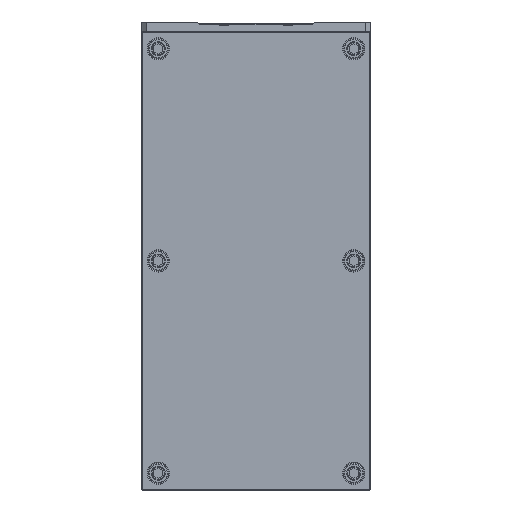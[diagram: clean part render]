
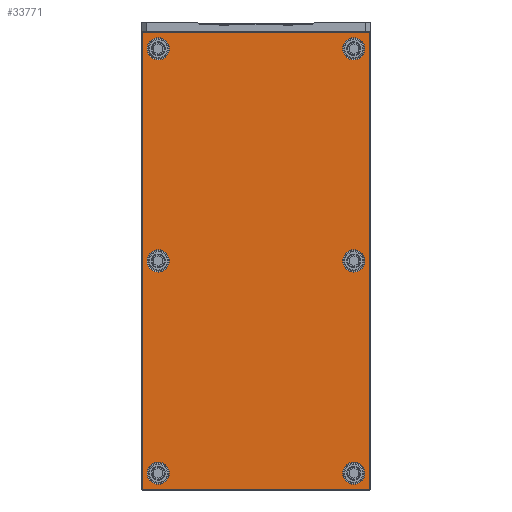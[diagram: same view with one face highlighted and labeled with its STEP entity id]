
A CAD part, front view. The second image highlights one B-rep face of the part: STEP entity #33771.
In plain terms, the highlighted planar face has unit normal (0, -1, 0).
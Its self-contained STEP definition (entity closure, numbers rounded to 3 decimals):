
#32330=CARTESIAN_POINT('',(149.,-9.,-74.));
#32331=DIRECTION('',(0.,-1.,0.));
#32332=DIRECTION('',(0.,0.,-1.));
#32333=AXIS2_PLACEMENT_3D('',#32330,#32331,#32332);
#32335=DIRECTION('',(1.,0.,0.));
#32336=VECTOR('',#32335,298.);
#32337=CARTESIAN_POINT('',(-149.,-9.,
-74.5));
#32338=LINE('',#32337,#32336);
#32339=CARTESIAN_POINT('',(-149.,-9.,-74.));
#32340=DIRECTION('',(0.,-1.,0.));
#32341=DIRECTION('',(-1.,0.,0.));
#32342=AXIS2_PLACEMENT_3D('',#32339,#32340,#32341);
#32344=DIRECTION('',(0.,0.,-1.));
#32345=VECTOR('',#32344,148.);
#32346=CARTESIAN_POINT('',(-149.5,-9.,74.));
#32347=LINE('',#32346,#32345);
#32348=CARTESIAN_POINT('',(-149.,-9.,74.));
#32349=DIRECTION('',(0.,-1.,0.));
#32350=DIRECTION('',(0.,0.,1.));
#32351=AXIS2_PLACEMENT_3D('',#32348,#32349,#32350);
#32353=DIRECTION('',(-1.,0.,0.));
#32354=VECTOR('',#32353,298.);
#32355=CARTESIAN_POINT('',(149.,-9.,
74.5));
#32356=LINE('',#32355,#32354);
#32357=CARTESIAN_POINT('',(149.,-9.,74.));
#32358=DIRECTION('',(0.,-1.,0.));
#32359=DIRECTION('',(1.,0.,0.));
#32360=AXIS2_PLACEMENT_3D('',#32357,#32358,#32359);
#32362=DIRECTION('',(0.,0.,1.));
#32363=VECTOR('',#32362,148.);
#32364=CARTESIAN_POINT('',(149.5,-9.,-74.));
#32365=LINE('',#32364,#32363);
#32366=CARTESIAN_POINT('',(-139.,-9.,-64.));
#32367=DIRECTION('',(0.,1.,0.));
#32368=DIRECTION('',(1.,0.,0.));
#32369=AXIS2_PLACEMENT_3D('',#32366,#32367,#32368);
#32371=CARTESIAN_POINT('',(-139.,-9.,-64.));
#32372=DIRECTION('',(0.,1.,0.));
#32373=DIRECTION('',(-1.,0.,0.));
#32374=AXIS2_PLACEMENT_3D('',#32371,#32372,#32373);
#32376=CARTESIAN_POINT('',(0.,-9.,-64.));
#32377=DIRECTION('',(0.,1.,0.));
#32378=DIRECTION('',(1.,0.,0.));
#32379=AXIS2_PLACEMENT_3D('',#32376,#32377,#32378);
#32381=CARTESIAN_POINT('',(0.,-9.,-64.));
#32382=DIRECTION('',(0.,1.,0.));
#32383=DIRECTION('',(-1.,0.,0.));
#32384=AXIS2_PLACEMENT_3D('',#32381,#32382,#32383);
#32386=CARTESIAN_POINT('',(139.,-9.,-64.));
#32387=DIRECTION('',(0.,1.,0.));
#32388=DIRECTION('',(1.,0.,0.));
#32389=AXIS2_PLACEMENT_3D('',#32386,#32387,#32388);
#32391=CARTESIAN_POINT('',(139.,-9.,-64.));
#32392=DIRECTION('',(0.,1.,0.));
#32393=DIRECTION('',(-1.,0.,0.));
#32394=AXIS2_PLACEMENT_3D('',#32391,#32392,#32393);
#32396=CARTESIAN_POINT('',(139.,-9.,64.));
#32397=DIRECTION('',(0.,1.,0.));
#32398=DIRECTION('',(1.,0.,0.));
#32399=AXIS2_PLACEMENT_3D('',#32396,#32397,#32398);
#32401=CARTESIAN_POINT('',(139.,-9.,64.));
#32402=DIRECTION('',(0.,1.,0.));
#32403=DIRECTION('',(-1.,0.,0.));
#32404=AXIS2_PLACEMENT_3D('',#32401,#32402,#32403);
#32406=CARTESIAN_POINT('',(0.,-9.,64.));
#32407=DIRECTION('',(0.,1.,0.));
#32408=DIRECTION('',(1.,0.,0.));
#32409=AXIS2_PLACEMENT_3D('',#32406,#32407,#32408);
#32411=CARTESIAN_POINT('',(0.,-9.,64.));
#32412=DIRECTION('',(0.,1.,0.));
#32413=DIRECTION('',(-1.,0.,0.));
#32414=AXIS2_PLACEMENT_3D('',#32411,#32412,#32413);
#32416=CARTESIAN_POINT('',(-139.,-9.,64.));
#32417=DIRECTION('',(0.,1.,0.));
#32418=DIRECTION('',(1.,0.,0.));
#32419=AXIS2_PLACEMENT_3D('',#32416,#32417,#32418);
#32421=CARTESIAN_POINT('',(-139.,-9.,64.));
#32422=DIRECTION('',(0.,1.,0.));
#32423=DIRECTION('',(-1.,0.,0.));
#32424=AXIS2_PLACEMENT_3D('',#32421,#32422,#32423);
#33500=CARTESIAN_POINT('',(149.,-9.,-74.5));
#33501=CARTESIAN_POINT('',(149.5,-9.,-74.));
#33502=VERTEX_POINT('',#33500);
#33503=VERTEX_POINT('',#33501);
#33508=CARTESIAN_POINT('',(149.5,-9.,
74.));
#33509=VERTEX_POINT('',#33508);
#33512=CARTESIAN_POINT('',(149.,-9.,74.5));
#33513=VERTEX_POINT('',#33512);
#33516=CARTESIAN_POINT('',(-149.,-9.,
74.5));
#33517=VERTEX_POINT('',#33516);
#33520=CARTESIAN_POINT('',(-149.5,-9.,74.));
#33521=VERTEX_POINT('',#33520);
#33524=CARTESIAN_POINT('',(-149.5,-9.,
-74.));
#33525=VERTEX_POINT('',#33524);
#33528=CARTESIAN_POINT('',(-149.,-9.,-74.5));
#33529=VERTEX_POINT('',#33528);
#33556=CARTESIAN_POINT('',(-131.7,-9.,-64.));
#33557=CARTESIAN_POINT('',(-146.3,-9.,-64.));
#33558=VERTEX_POINT('',#33556);
#33559=VERTEX_POINT('',#33557);
#33572=CARTESIAN_POINT('',(7.3,-9.,-64.));
#33573=CARTESIAN_POINT('',(-7.3,-9.,-64.));
#33574=VERTEX_POINT('',#33572);
#33575=VERTEX_POINT('',#33573);
#33596=CARTESIAN_POINT('',(146.3,-9.,-64.));
#33597=CARTESIAN_POINT('',(131.7,-9.,-64.));
#33598=VERTEX_POINT('',#33596);
#33599=VERTEX_POINT('',#33597);
#33612=CARTESIAN_POINT('',(146.3,-9.,64.));
#33613=CARTESIAN_POINT('',(131.7,-9.,64.));
#33614=VERTEX_POINT('',#33612);
#33615=VERTEX_POINT('',#33613);
#33620=CARTESIAN_POINT('',(7.3,-9.,64.));
#33621=CARTESIAN_POINT('',(-7.3,-9.,64.));
#33622=VERTEX_POINT('',#33620);
#33623=VERTEX_POINT('',#33621);
#33644=CARTESIAN_POINT('',(-131.7,-9.,64.));
#33645=CARTESIAN_POINT('',(-146.3,-9.,64.));
#33646=VERTEX_POINT('',#33644);
#33647=VERTEX_POINT('',#33645);
#33712=CARTESIAN_POINT('',(0.,-9.,0.));
#33713=DIRECTION('',(0.,1.,0.));
#33714=DIRECTION('',(1.,0.,0.));
#33715=AXIS2_PLACEMENT_3D('',#33712,#33713,#33714);
#33716=PLANE('',#33715);
#33718=ORIENTED_EDGE('',*,*,#33717,.F.);
#33720=ORIENTED_EDGE('',*,*,#33719,.F.);
#33722=ORIENTED_EDGE('',*,*,#33721,.F.);
#33724=ORIENTED_EDGE('',*,*,#33723,.F.);
#33726=ORIENTED_EDGE('',*,*,#33725,.F.);
#33728=ORIENTED_EDGE('',*,*,#33727,.F.);
#33730=ORIENTED_EDGE('',*,*,#33729,.F.);
#33732=ORIENTED_EDGE('',*,*,#33731,.F.);
#33733=EDGE_LOOP('',(#33718,#33720,#33722,#33724,#33726,#33728,#33730,#33732));
#33734=FACE_OUTER_BOUND('',#33733,.F.);
#33736=ORIENTED_EDGE('',*,*,#33735,.F.);
#33738=ORIENTED_EDGE('',*,*,#33737,.F.);
#33739=EDGE_LOOP('',(#33736,#33738));
#33740=FACE_BOUND('',#33739,.F.);
#33742=ORIENTED_EDGE('',*,*,#33741,.F.);
#33744=ORIENTED_EDGE('',*,*,#33743,.F.);
#33745=EDGE_LOOP('',(#33742,#33744));
#33746=FACE_BOUND('',#33745,.F.);
#33748=ORIENTED_EDGE('',*,*,#33747,.F.);
#33750=ORIENTED_EDGE('',*,*,#33749,.F.);
#33751=EDGE_LOOP('',(#33748,#33750));
#33752=FACE_BOUND('',#33751,.F.);
#33754=ORIENTED_EDGE('',*,*,#33753,.F.);
#33756=ORIENTED_EDGE('',*,*,#33755,.F.);
#33757=EDGE_LOOP('',(#33754,#33756));
#33758=FACE_BOUND('',#33757,.F.);
#33760=ORIENTED_EDGE('',*,*,#33759,.F.);
#33762=ORIENTED_EDGE('',*,*,#33761,.F.);
#33763=EDGE_LOOP('',(#33760,#33762));
#33764=FACE_BOUND('',#33763,.F.);
#33766=ORIENTED_EDGE('',*,*,#33765,.F.);
#33768=ORIENTED_EDGE('',*,*,#33767,.F.);
#33769=EDGE_LOOP('',(#33766,#33768));
#33770=FACE_BOUND('',#33769,.F.);
#33771=ADVANCED_FACE('',(#33734,#33740,#33746,#33752,#33758,#33764,#33770),
#33716,.F.);
#32334=CIRCLE('',#32333,0.5);
#32343=CIRCLE('',#32342,0.5);
#32352=CIRCLE('',#32351,0.5);
#32361=CIRCLE('',#32360,0.5);
#32370=CIRCLE('',#32369,7.3);
#32375=CIRCLE('',#32374,7.3);
#32380=CIRCLE('',#32379,7.3);
#32385=CIRCLE('',#32384,7.3);
#32390=CIRCLE('',#32389,7.3);
#32395=CIRCLE('',#32394,7.3);
#32400=CIRCLE('',#32399,7.3);
#32405=CIRCLE('',#32404,7.3);
#32410=CIRCLE('',#32409,7.3);
#32415=CIRCLE('',#32414,7.3);
#32420=CIRCLE('',#32419,7.3);
#32425=CIRCLE('',#32424,7.3);
#33717=EDGE_CURVE('',#33502,#33503,#32334,.T.);
#33719=EDGE_CURVE('',#33529,#33502,#32338,.T.);
#33721=EDGE_CURVE('',#33525,#33529,#32343,.T.);
#33723=EDGE_CURVE('',#33521,#33525,#32347,.T.);
#33725=EDGE_CURVE('',#33517,#33521,#32352,.T.);
#33727=EDGE_CURVE('',#33513,#33517,#32356,.T.);
#33729=EDGE_CURVE('',#33509,#33513,#32361,.T.);
#33731=EDGE_CURVE('',#33503,#33509,#32365,.T.);
#33735=EDGE_CURVE('',#33558,#33559,#32370,.T.);
#33737=EDGE_CURVE('',#33559,#33558,#32375,.T.);
#33741=EDGE_CURVE('',#33574,#33575,#32380,.T.);
#33743=EDGE_CURVE('',#33575,#33574,#32385,.T.);
#33747=EDGE_CURVE('',#33598,#33599,#32390,.T.);
#33749=EDGE_CURVE('',#33599,#33598,#32395,.T.);
#33753=EDGE_CURVE('',#33614,#33615,#32400,.T.);
#33755=EDGE_CURVE('',#33615,#33614,#32405,.T.);
#33759=EDGE_CURVE('',#33622,#33623,#32410,.T.);
#33761=EDGE_CURVE('',#33623,#33622,#32415,.T.);
#33765=EDGE_CURVE('',#33646,#33647,#32420,.T.);
#33767=EDGE_CURVE('',#33647,#33646,#32425,.T.);
